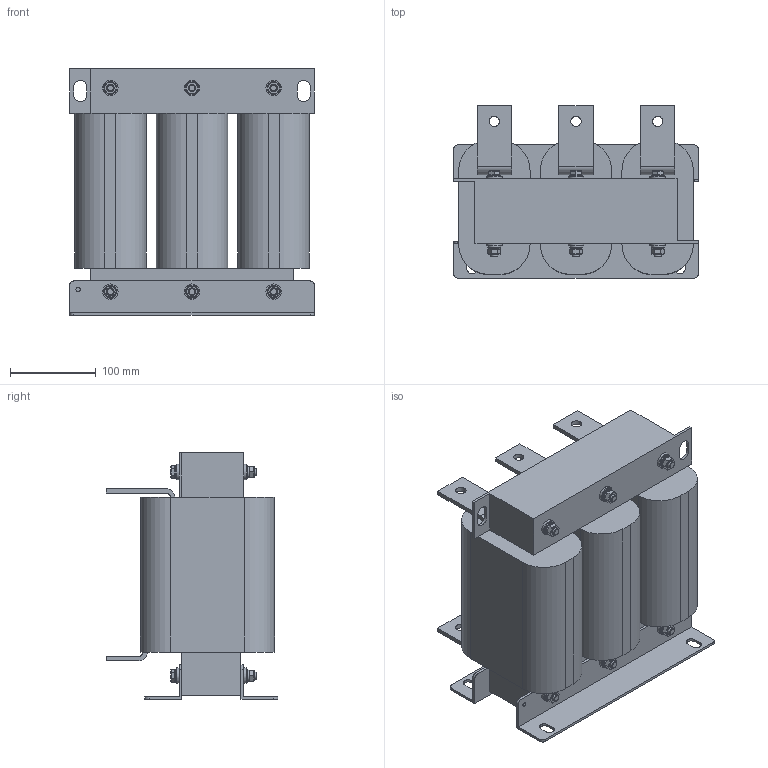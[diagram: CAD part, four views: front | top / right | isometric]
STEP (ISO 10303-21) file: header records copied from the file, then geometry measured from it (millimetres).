
FILE_DESCRIPTION(('STEP AP203'), '1');
FILE_NAME('栖闉罻 _ ISF-220_425-4', '', ('UNSPECIFIED'), ('UNSPECIFIED'), 'ASCON STEP Converter 1.6', 'ASCON Math Kernel', '');
FILE_SCHEMA(('CONFIG_CONTROL_DESIGN'));
Length unit declared in the file: millimetre
Products named in the file (12): ISF-220_425-4
Assembly tree (55 placements, depth 2):
  ISF-220_425-4
    ISF-220_425-4
    ISF-220_425-4  x2
    ISF-220_425-4  x3
    ISF-220_425-4  x3
    ISF-220_425-4  x3
    ISF-220_425-4
    ISF-220_425-4  x12
    ISF-220_425-4  x12
    ISF-220_425-4  x6
    ISF-220_425-4  x6
    ISF-220_425-4  x6
Bounding box: 285 x 200 x 287 mm (x, y, z)
Volume: 8390889.4 mm3; surface area: 608498.2 mm2
Topology: 55 solids, 55 shells, 570 faces, 1200 edges, 746 vertices
Faces by surface type: plane 416, cylinder 124, cone 18, torus 12
Full cylindrical faces by diameter (mm): 5 x2, 8 x48, 12 x6, 15 x12, 18 x12
Entity records: 6040 total; most frequent: CARTESIAN_POINT 1024, DIRECTION 784, ORIENTED_EDGE 618, EDGE_CURVE 309, AXIS2_PLACEMENT_3D 281, LINE 222, VECTOR 222, VERTEX_POINT 211
